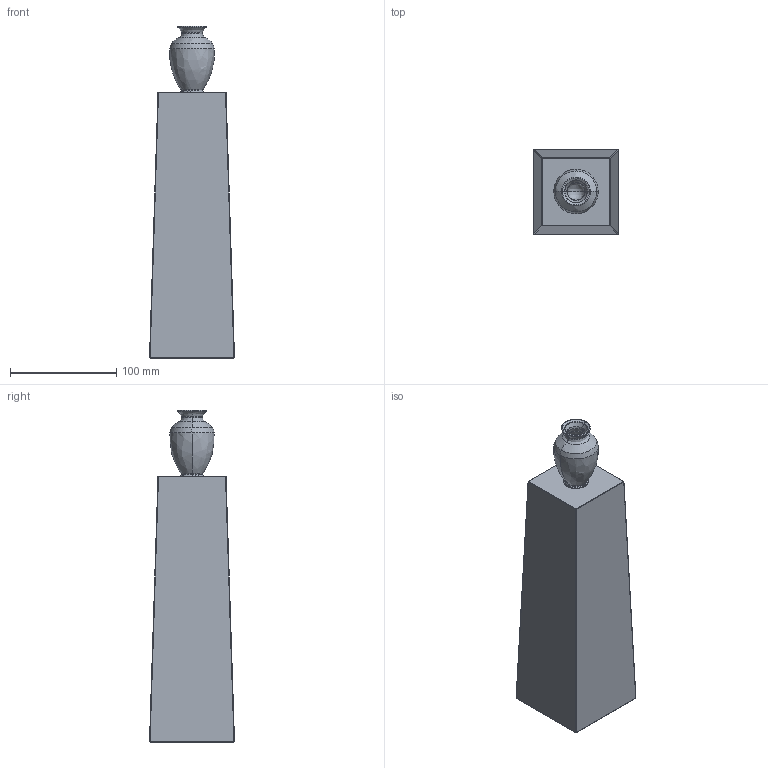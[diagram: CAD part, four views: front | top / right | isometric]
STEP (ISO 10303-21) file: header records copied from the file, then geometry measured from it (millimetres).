
FILE_DESCRIPTION(/* description */ (''),/* implementation_level */ '2;1');
FILE_NAME(/* name */ 'PEDESTAL VASE NO.2',/* time_stamp */ '2017-05-23T15:53:18+02:00',/* author */ (''),/* organization */ (''),/* preprocessor_version */ 'ST-DEVELOPER v10',/* originating_system */ '',/* authorisation */ '');
FILE_SCHEMA (('CONFIG_CONTROL_DESIGN'));
Length unit declared in the file: millimetre
Products named in the file (1): 1
Bounding box: 79.97 x 79.97 x 312.28 mm (x, y, z)
Volume: 1277108.1 mm3; surface area: 120625 mm2
Topology: 2 solids, 2 shells, 90 faces, 192 edges, 98 vertices
Faces by surface type: bspline 82, plane 8
Entity records: 3084 total; most frequent: CARTESIAN_POINT 2008, ORIENTED_EDGE 364, EDGE_CURVE 182, VERTEX_POINT 98, EDGE_LOOP 92, ADVANCED_FACE 90, FACE_OUTER_BOUND 90, B_SPLINE_CURVE_WITH_KNOTS 40
